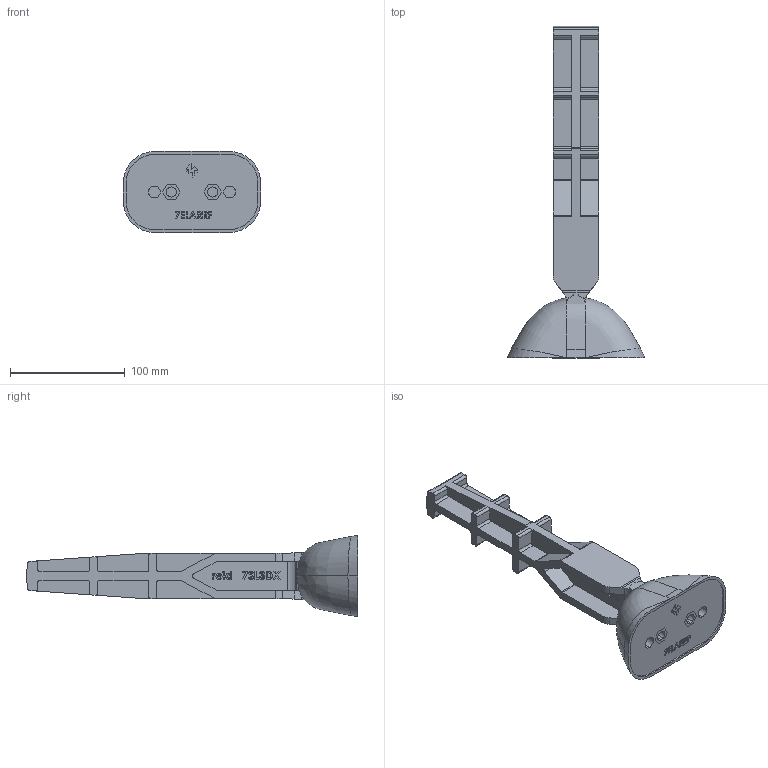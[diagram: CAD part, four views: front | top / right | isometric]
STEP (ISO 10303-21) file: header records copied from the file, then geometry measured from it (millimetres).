
FILE_DESCRIPTION (( 'STEP AP203' ), '1' );
FILE_NAME ('7SL3DX and 7ELARRF for Revit.STEP', '2025-02-05T03:22:30', ( '' ), ( '' ), 'SwSTEP 2.0', 'SolidWorks 2024', '' );
FILE_SCHEMA (( 'CONFIG_CONTROL_DESIGN' ));
Length unit declared in the file: millimetre
Products named in the file (1): 7SL3DX and 7ELARRF for Revit
Bounding box: 120 x 289.28 x 71 mm (x, y, z)
Volume: 392341.1 mm3; surface area: 76236.4 mm2
Topology: 1 solids, 1 shells, 610 faces, 1658 edges, 1096 vertices
Faces by surface type: plane 373, bspline 136, cylinder 97, cone 4
Entity records: 27081 total; most frequent: CARTESIAN_POINT 12443, ORIENTED_EDGE 3300, DIRECTION 2494, EDGE_CURVE 1650, VECTOR 1164, LINE 1164, VERTEX_POINT 1096, AXIS2_PLACEMENT_3D 665
